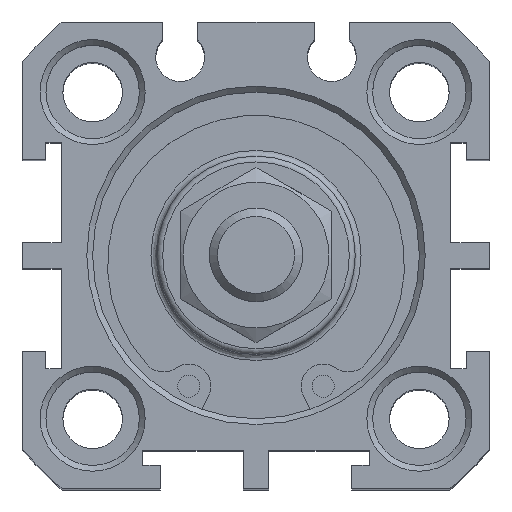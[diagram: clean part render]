
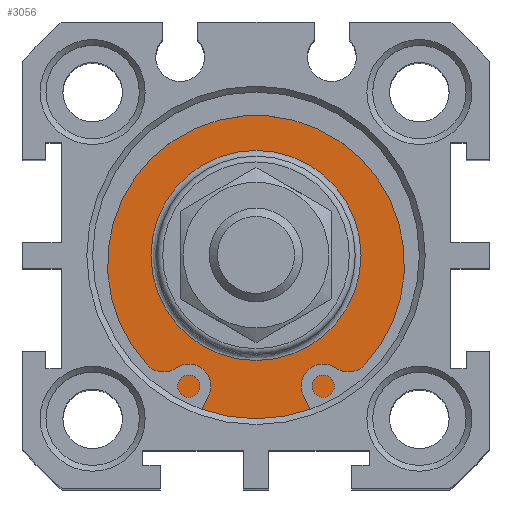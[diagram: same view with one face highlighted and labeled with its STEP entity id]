
A CAD part, top view. The second image highlights one B-rep face of the part: STEP entity #3056.
In plain terms, the highlighted planar face has unit normal (0, 0, 1).
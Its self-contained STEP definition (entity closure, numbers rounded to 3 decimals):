
#3005=CARTESIAN_POINT('',(0.12,10.914,58.3));
#3006=VERTEX_POINT('',#3005);
#3007=CARTESIAN_POINT('',(0.12,1.914,58.3));
#3008=DIRECTION('',(0.0,0.0,1.0));
#3009=DIRECTION('',(0.0,-1.0,0.0));
#3010=AXIS2_PLACEMENT_3D('',#3007,#3008,#3009);
#3011=CIRCLE('',#3010,9.);
#3012=EDGE_CURVE('',#3006,#3006,#3011,.T.);
#3037=CARTESIAN_POINT('',(0.12,13.164,58.3));
#3038=DIRECTION('',(0.0,0.0,1.0));
#3039=DIRECTION('',(1.0,0.0,0.0));
#3040=AXIS2_PLACEMENT_3D('',#3037,#3038,#3039);
#3041=PLANE('',#3040);
#3042=CARTESIAN_POINT('',(0.12,15.914,58.3));
#3043=VERTEX_POINT('',#3042);
#3044=CARTESIAN_POINT('',(0.12,1.914,58.3));
#3045=DIRECTION('',(0.0,0.0,-1.0));
#3046=DIRECTION('',(0.0,1.0,0.0));
#3047=AXIS2_PLACEMENT_3D('',#3044,#3045,#3046);
#3048=CIRCLE('',#3047,14.0);
#3049=EDGE_CURVE('',#3043,#3043,#3048,.T.);
#3050=ORIENTED_EDGE('',*,*,#3049,.F.);
#3051=EDGE_LOOP('',(#3050));
#3052=FACE_OUTER_BOUND('',#3051,.T.);
#3053=ORIENTED_EDGE('',*,*,#3012,.F.);
#3054=EDGE_LOOP('',(#3053));
#3055=FACE_BOUND('',#3054,.T.);
#3056=ADVANCED_FACE('',(#3052,#3055),#3041,.T.);
